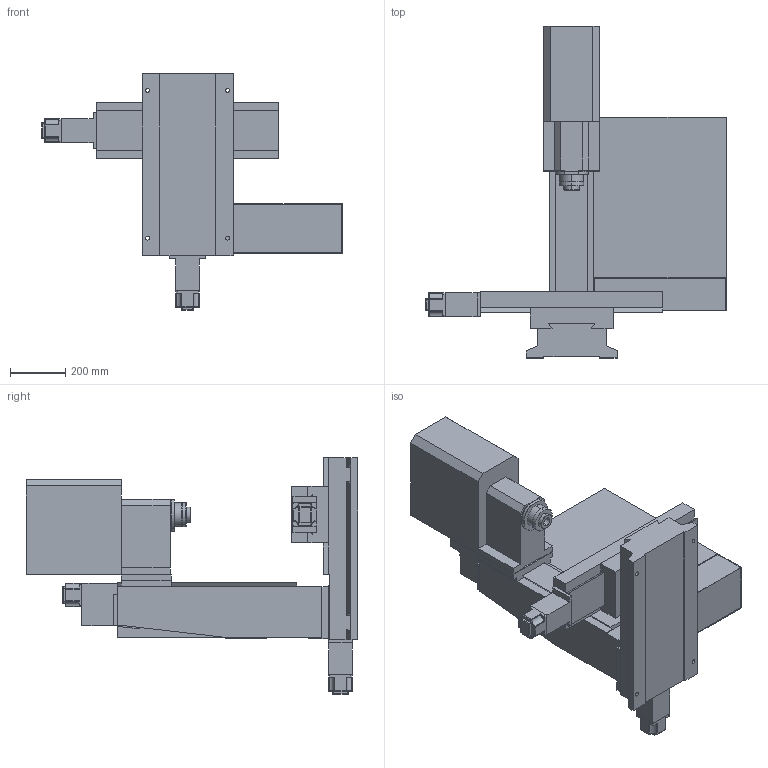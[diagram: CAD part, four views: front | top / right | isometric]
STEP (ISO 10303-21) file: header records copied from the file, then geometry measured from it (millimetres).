
FILE_DESCRIPTION (( 'STEP AP214' ), '1' );
FILE_NAME ('32084_770_PCNC_MACHINE.STEP', '2014-07-02T14:16:07', ( '' ), ( '' ), 'SwSTEP 2.0', 'SolidWorks 2012', '' );
FILE_SCHEMA (( 'AUTOMOTIVE_DESIGN' ));
Length unit declared in the file: millimetre
Products named in the file (14): 32084_770_PCNC_MACHINE; 32084 770 BASE; 32084 770 X-Y SADDLE; 32084 770 TABLE; 32084 770 COLUMN; 32084 770 Z-AXIS SADDLE; 32084 770 SPINDLE HOUSING; 32084 770 SPINDLE GUARD; 32084 770 X-Y AXIS MOTOR HOUSING; 32084 770 Z-AXIS MOTOR MOUNT; 32084 770 AXIS MOTOR; 32084 770 SPINDLE NOSE; 32084 770 ELECTRICAL CABINET; 32084 ELECT LOWER
Assembly tree (16 placements, depth 2):
  32084_770_PCNC_MACHINE
    32084 770 BASE
    32084 770 X-Y SADDLE
    32084 770 TABLE
    32084 770 COLUMN
    32084 770 Z-AXIS SADDLE
    32084 770 SPINDLE HOUSING
    32084 770 SPINDLE GUARD
    32084 770 X-Y AXIS MOTOR HOUSING  x2
    32084 770 Z-AXIS MOTOR MOUNT
    32084 770 AXIS MOTOR  x3
    32084 770 SPINDLE NOSE
    32084 770 ELECTRICAL CABINET
    32084 ELECT LOWER
Bounding box: 1088 x 1201 x 856 mm (x, y, z)
Volume: 140477495.8 mm3; surface area: 4750952.4 mm2
Topology: 16 solids, 16 shells, 468 faces, 1197 edges, 743 vertices
Faces by surface type: plane 294, cylinder 113, torus 26, sphere 24, cone 11
Entity records: 10856 total; most frequent: CARTESIAN_POINT 1815, ORIENTED_EDGE 1754, DIRECTION 1740, EDGE_CURVE 877, VECTOR 724, LINE 724, VERTEX_POINT 567, AXIS2_PLACEMENT_3D 508
